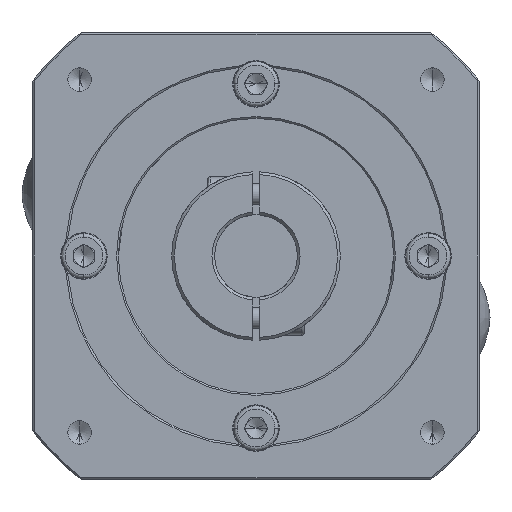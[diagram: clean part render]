
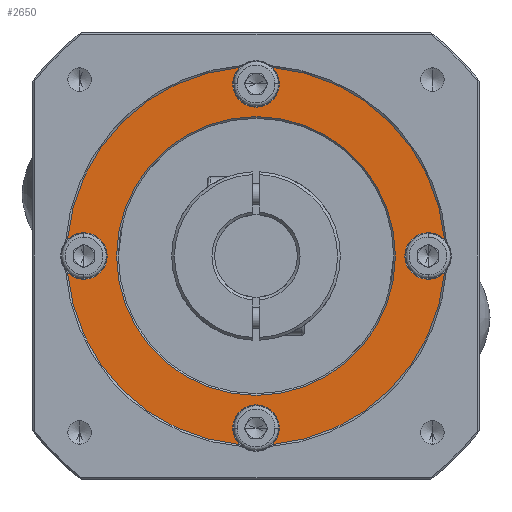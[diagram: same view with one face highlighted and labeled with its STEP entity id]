
A CAD part, left-side view. The second image highlights one B-rep face of the part: STEP entity #2650.
In plain terms, the highlighted planar face has unit normal (-1, 0, 0) as drawn and (0, 0, 1) by its records, which use the part's own axes.
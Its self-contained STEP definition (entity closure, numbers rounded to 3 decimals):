
#74 = CIRCLE ( 'NONE', #14021, 6.75 ) ;
#133 = EDGE_CURVE ( 'NONE', #2223, #7394, #8114, .T. ) ;
#399 = DIRECTION ( 'NONE',  ( 0., 0., -1. ) ) ;
#542 = CIRCLE ( 'NONE', #11021, 40.5 ) ;
#754 = EDGE_CURVE ( 'NONE', #3634, #10889, #7514, .T. ) ;
#778 = DIRECTION ( 'NONE',  ( 1., 0., 0. ) ) ;
#818 = DIRECTION ( 'NONE',  ( 1., 0., 0. ) ) ;
#946 = CARTESIAN_POINT ( 'NONE',  ( -40.5, 0., 66. ) ) ;
#1095 = DIRECTION ( 'NONE',  ( 1., 0., 0. ) ) ;
#1187 = CARTESIAN_POINT ( 'NONE',  ( 0., 50., 66. ) ) ;
#1328 = CIRCLE ( 'NONE', #1863, 6.75 ) ;
#1361 = ORIENTED_EDGE ( 'NONE', *, *, #12608, .T. ) ;
#1365 = DIRECTION ( 'NONE',  ( 0., 0., -1. ) ) ;
#1583 = CIRCLE ( 'NONE', #7326, 6.75 ) ;
#1648 = DIRECTION ( 'NONE',  ( 0., 0., 1. ) ) ;
#1710 = CIRCLE ( 'NONE', #7717, 6.75 ) ;
#1863 = AXIS2_PLACEMENT_3D ( 'NONE', #8983, #10031, #7691 ) ;
#2130 = CIRCLE ( 'NONE', #2240, 6.75 ) ;
#2197 = VERTEX_POINT ( 'NONE', #4202 ) ;
#2223 = VERTEX_POINT ( 'NONE', #13677 ) ;
#2240 = AXIS2_PLACEMENT_3D ( 'NONE', #14344, #3829, #13072 ) ;
#2332 = CARTESIAN_POINT ( 'NONE',  ( 0., 0., 66. ) ) ;
#2412 = DIRECTION ( 'NONE',  ( 0., 0., -1. ) ) ;
#2460 = CARTESIAN_POINT ( 'NONE',  ( 0., 0., 66. ) ) ;
#2650 = ADVANCED_FACE ( 'NONE', ( #3476, #6723 ), #2840, .T. ) ;
#2688 = VERTEX_POINT ( 'NONE', #946 ) ;
#2749 = ORIENTED_EDGE ( 'NONE', *, *, #6985, .T. ) ;
#2757 = AXIS2_PLACEMENT_3D ( 'NONE', #13469, #7773, #778 ) ;
#2840 = PLANE ( 'NONE',  #7495 ) ;
#2993 = CARTESIAN_POINT ( 'NONE',  ( -50., 0., 66. ) ) ;
#2998 = CIRCLE ( 'NONE', #8922, 55. ) ;
#3198 = EDGE_CURVE ( 'NONE', #9430, #8277, #5618, .T. ) ;
#3206 = CARTESIAN_POINT ( 'NONE',  ( -54.794, -4.751, 66. ) ) ;
#3469 = CARTESIAN_POINT ( 'NONE',  ( -54.794, 4.751, 66. ) ) ;
#3476 = FACE_OUTER_BOUND ( 'NONE', #4344, .T. ) ;
#3598 = CIRCLE ( 'NONE', #4071, 6.75 ) ;
#3634 = VERTEX_POINT ( 'NONE', #6052 ) ;
#3718 = AXIS2_PLACEMENT_3D ( 'NONE', #6885, #1365, #7259 ) ;
#3780 = VERTEX_POINT ( 'NONE', #8604 ) ;
#3829 = DIRECTION ( 'NONE',  ( 0., 0., -1. ) ) ;
#4071 = AXIS2_PLACEMENT_3D ( 'NONE', #4985, #4830, #7159 ) ;
#4165 = ORIENTED_EDGE ( 'NONE', *, *, #11268, .T. ) ;
#4202 = CARTESIAN_POINT ( 'NONE',  ( -4.751, 54.794, 66. ) ) ;
#4236 = VERTEX_POINT ( 'NONE', #5482 ) ;
#4344 = EDGE_LOOP ( 'NONE', ( #7891, #9060, #4571, #1361, #14491, #12765, #10035, #5010, #10666, #12193, #2749, #5839, #4165, #14189 ) ) ;
#4563 = EDGE_CURVE ( 'NONE', #2688, #5560, #14428, .T. ) ;
#4571 = ORIENTED_EDGE ( 'NONE', *, *, #3198, .T. ) ;
#4592 = DIRECTION ( 'NONE',  ( 0., 0., -1. ) ) ;
#4619 = DIRECTION ( 'NONE',  ( 1., 0., 0. ) ) ;
#4749 = DIRECTION ( 'NONE',  ( 0., 0., -1. ) ) ;
#4830 = DIRECTION ( 'NONE',  ( 0., 0., -1. ) ) ;
#4899 = CARTESIAN_POINT ( 'NONE',  ( -6.75, -50., 66. ) ) ;
#4985 = CARTESIAN_POINT ( 'NONE',  ( 0., -50., 66. ) ) ;
#5010 = ORIENTED_EDGE ( 'NONE', *, *, #13974, .T. ) ;
#5024 = EDGE_CURVE ( 'NONE', #7394, #3780, #2130, .T. ) ;
#5053 = CARTESIAN_POINT ( 'NONE',  ( 0., -50., 66. ) ) ;
#5211 = CARTESIAN_POINT ( 'NONE',  ( 4.751, 54.794, 66. ) ) ;
#5234 = CARTESIAN_POINT ( 'NONE',  ( 0., 50., 66. ) ) ;
#5320 = DIRECTION ( 'NONE',  ( 0., 0., -1. ) ) ;
#5410 = VERTEX_POINT ( 'NONE', #11490 ) ;
#5482 = CARTESIAN_POINT ( 'NONE',  ( 6.75, -50., 66. ) ) ;
#5560 = VERTEX_POINT ( 'NONE', #9973 ) ;
#5618 = CIRCLE ( 'NONE', #2757, 55. ) ;
#5748 = DIRECTION ( 'NONE',  ( 1., 0., 0. ) ) ;
#5839 = ORIENTED_EDGE ( 'NONE', *, *, #12595, .T. ) ;
#6041 = AXIS2_PLACEMENT_3D ( 'NONE', #1187, #4592, #5748 ) ;
#6052 = CARTESIAN_POINT ( 'NONE',  ( -43.25, 0., 66. ) ) ;
#6101 = EDGE_CURVE ( 'NONE', #5410, #12446, #1710, .T. ) ;
#6175 = EDGE_CURVE ( 'NONE', #3780, #9430, #10560, .T. ) ;
#6390 = DIRECTION ( 'NONE',  ( 0., 0., -1. ) ) ;
#6426 = DIRECTION ( 'NONE',  ( 1., 0., 0. ) ) ;
#6429 = DIRECTION ( 'NONE',  ( 1., 0., 0. ) ) ;
#6723 = FACE_BOUND ( 'NONE', #14437, .T. ) ;
#6742 = CARTESIAN_POINT ( 'NONE',  ( -4.751, -54.794, 66. ) ) ;
#6751 = AXIS2_PLACEMENT_3D ( 'NONE', #9367, #2412, #10503 ) ;
#6885 = CARTESIAN_POINT ( 'NONE',  ( 0., -50., 66. ) ) ;
#6985 = EDGE_CURVE ( 'NONE', #14704, #13852, #3598, .T. ) ;
#7159 = DIRECTION ( 'NONE',  ( 1., 0., 0. ) ) ;
#7206 = AXIS2_PLACEMENT_3D ( 'NONE', #7567, #6390, #14487 ) ;
#7259 = DIRECTION ( 'NONE',  ( 1., 0., 0. ) ) ;
#7326 = AXIS2_PLACEMENT_3D ( 'NONE', #2993, #5320, #13399 ) ;
#7336 = DIRECTION ( 'NONE',  ( 1., 0., 0. ) ) ;
#7394 = VERTEX_POINT ( 'NONE', #13723 ) ;
#7495 = AXIS2_PLACEMENT_3D ( 'NONE', #10948, #13352, #6429 ) ;
#7514 = CIRCLE ( 'NONE', #11018, 6.75 ) ;
#7567 = CARTESIAN_POINT ( 'NONE',  ( 50., 0., 66. ) ) ;
#7691 = DIRECTION ( 'NONE',  ( 1., 0., 0. ) ) ;
#7717 = AXIS2_PLACEMENT_3D ( 'NONE', #5234, #10059, #818 ) ;
#7773 = DIRECTION ( 'NONE',  ( 0., 0., 1. ) ) ;
#7812 = CARTESIAN_POINT ( 'NONE',  ( -6.75, 50., 66. ) ) ;
#7891 = ORIENTED_EDGE ( 'NONE', *, *, #5024, .T. ) ;
#8090 = DIRECTION ( 'NONE',  ( 0., 0., 1. ) ) ;
#8114 = CIRCLE ( 'NONE', #12374, 55. ) ;
#8213 = DIRECTION ( 'NONE',  ( 1., 0., 0. ) ) ;
#8277 = VERTEX_POINT ( 'NONE', #5211 ) ;
#8323 = EDGE_CURVE ( 'NONE', #12446, #2197, #1328, .T. ) ;
#8604 = CARTESIAN_POINT ( 'NONE',  ( 43.25, 0., 66. ) ) ;
#8675 = DIRECTION ( 'NONE',  ( 0., 0., -1. ) ) ;
#8676 = CARTESIAN_POINT ( 'NONE',  ( 0., 0., 66. ) ) ;
#8838 = CIRCLE ( 'NONE', #11406, 55. ) ;
#8922 = AXIS2_PLACEMENT_3D ( 'NONE', #2332, #8090, #1095 ) ;
#8983 = CARTESIAN_POINT ( 'NONE',  ( 0., 50., 66. ) ) ;
#9060 = ORIENTED_EDGE ( 'NONE', *, *, #6175, .T. ) ;
#9367 = CARTESIAN_POINT ( 'NONE',  ( 0., 0., 66. ) ) ;
#9430 = VERTEX_POINT ( 'NONE', #9844 ) ;
#9844 = CARTESIAN_POINT ( 'NONE',  ( 54.794, 4.751, 66. ) ) ;
#9973 = CARTESIAN_POINT ( 'NONE',  ( 40.5, 0., 66. ) ) ;
#10031 = DIRECTION ( 'NONE',  ( 0., 0., -1. ) ) ;
#10035 = ORIENTED_EDGE ( 'NONE', *, *, #14220, .T. ) ;
#10059 = DIRECTION ( 'NONE',  ( 0., 0., -1. ) ) ;
#10158 = CARTESIAN_POINT ( 'NONE',  ( 0., 0., 66. ) ) ;
#10503 = DIRECTION ( 'NONE',  ( 1., 0., 0. ) ) ;
#10560 = CIRCLE ( 'NONE', #7206, 6.75 ) ;
#10666 = ORIENTED_EDGE ( 'NONE', *, *, #754, .T. ) ;
#10889 = VERTEX_POINT ( 'NONE', #3206 ) ;
#10948 = CARTESIAN_POINT ( 'NONE',  ( 0., 0., 66. ) ) ;
#11018 = AXIS2_PLACEMENT_3D ( 'NONE', #14297, #399, #13128 ) ;
#11021 = AXIS2_PLACEMENT_3D ( 'NONE', #10158, #4749, #8213 ) ;
#11268 = EDGE_CURVE ( 'NONE', #4236, #2223, #74, .T. ) ;
#11406 = AXIS2_PLACEMENT_3D ( 'NONE', #2460, #11728, #4619 ) ;
#11490 = CARTESIAN_POINT ( 'NONE',  ( 6.75, 50., 66. ) ) ;
#11590 = VERTEX_POINT ( 'NONE', #3469 ) ;
#11728 = DIRECTION ( 'NONE',  ( 0., 0., 1. ) ) ;
#12115 = CIRCLE ( 'NONE', #6041, 6.75 ) ;
#12193 = ORIENTED_EDGE ( 'NONE', *, *, #13337, .T. ) ;
#12374 = AXIS2_PLACEMENT_3D ( 'NONE', #8676, #1648, #6426 ) ;
#12446 = VERTEX_POINT ( 'NONE', #7812 ) ;
#12595 = EDGE_CURVE ( 'NONE', #13852, #4236, #13363, .T. ) ;
#12608 = EDGE_CURVE ( 'NONE', #8277, #5410, #12115, .T. ) ;
#12765 = ORIENTED_EDGE ( 'NONE', *, *, #8323, .T. ) ;
#13072 = DIRECTION ( 'NONE',  ( 1., 0., 0. ) ) ;
#13128 = DIRECTION ( 'NONE',  ( 1., 0., 0. ) ) ;
#13337 = EDGE_CURVE ( 'NONE', #10889, #14704, #8838, .T. ) ;
#13352 = DIRECTION ( 'NONE',  ( 0., 0., 1. ) ) ;
#13363 = CIRCLE ( 'NONE', #3718, 6.75 ) ;
#13399 = DIRECTION ( 'NONE',  ( 1., 0., 0. ) ) ;
#13433 = ORIENTED_EDGE ( 'NONE', *, *, #13661, .T. ) ;
#13469 = CARTESIAN_POINT ( 'NONE',  ( 0., 0., 66. ) ) ;
#13661 = EDGE_CURVE ( 'NONE', #5560, #2688, #542, .T. ) ;
#13677 = CARTESIAN_POINT ( 'NONE',  ( 4.751, -54.794, 66. ) ) ;
#13723 = CARTESIAN_POINT ( 'NONE',  ( 54.794, -4.751, 66. ) ) ;
#13852 = VERTEX_POINT ( 'NONE', #4899 ) ;
#13974 = EDGE_CURVE ( 'NONE', #11590, #3634, #1583, .T. ) ;
#14021 = AXIS2_PLACEMENT_3D ( 'NONE', #5053, #8675, #7336 ) ;
#14189 = ORIENTED_EDGE ( 'NONE', *, *, #133, .T. ) ;
#14220 = EDGE_CURVE ( 'NONE', #2197, #11590, #2998, .T. ) ;
#14297 = CARTESIAN_POINT ( 'NONE',  ( -50., 0., 66. ) ) ;
#14344 = CARTESIAN_POINT ( 'NONE',  ( 50., 0., 66. ) ) ;
#14428 = CIRCLE ( 'NONE', #6751, 40.5 ) ;
#14437 = EDGE_LOOP ( 'NONE', ( #13433, #14741 ) ) ;
#14487 = DIRECTION ( 'NONE',  ( 1., 0., 0. ) ) ;
#14491 = ORIENTED_EDGE ( 'NONE', *, *, #6101, .T. ) ;
#14704 = VERTEX_POINT ( 'NONE', #6742 ) ;
#14741 = ORIENTED_EDGE ( 'NONE', *, *, #4563, .T. ) ;
